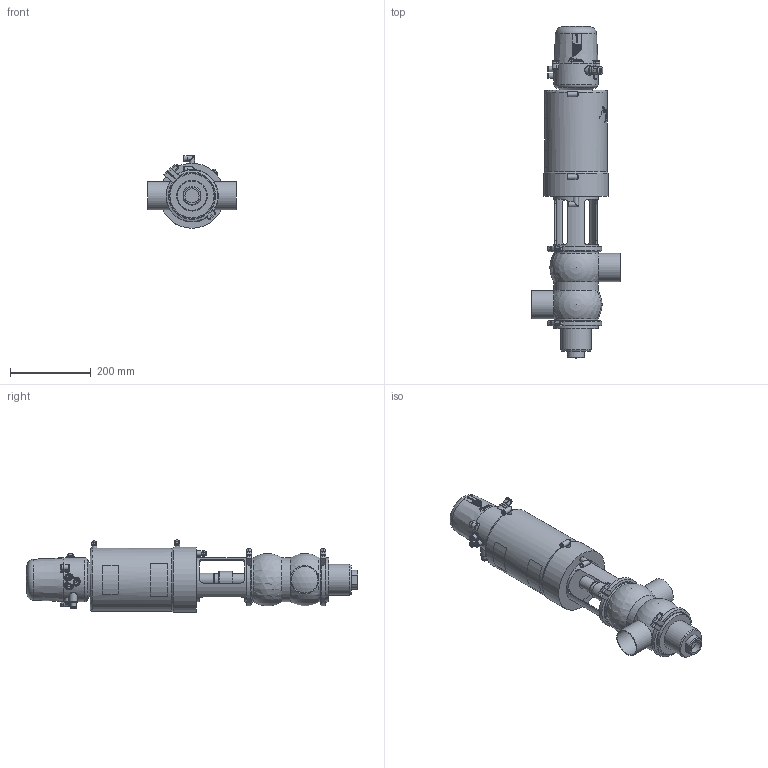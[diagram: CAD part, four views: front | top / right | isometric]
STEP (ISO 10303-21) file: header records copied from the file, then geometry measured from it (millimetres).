
FILE_DESCRIPTION (( 'STEP AP214' ), '1' );
FILE_NAME ('INNOVA P DC-180 W DIN 065 & C-TOP S_10.250.16.0019.STEP', '2024-08-08T12:21:15', ( '' ), ( '' ), 'SwSTEP 2.0', 'SolidWorks 2023', '' );
FILE_SCHEMA (( 'AUTOMOTIVE_DESIGN' ));
Length unit declared in the file: millimetre
Products named in the file (7): 10.250.15.0002_Type P T2; 10.240.15.0001_DN 065; 10.250.15.0003_DN 065; INNOVA P DC-180 W DIN 065 & C-TOP S_10.250.16.0019; 10.426.15.0001_C-TOP S - 3 EV; 10.250.15.0001_DIN 065; 10.251.15.0011_DIN 065
Assembly tree (7 placements, depth 2):
  INNOVA P DC-180 W DIN 065 & C-TOP S_10.250.16.0019
    10.250.15.0001_DIN 065
    10.250.15.0002_Type P T2
    10.426.15.0001_C-TOP S - 3 EV
    10.251.15.0011_DIN 065
    10.240.15.0001_DN 065  x2
    10.250.15.0003_DN 065
Bounding box: 220 x 822 x 179.5 mm (x, y, z)
Volume: 9462542.5 mm3; surface area: 573439.3 mm2
Topology: 7 solids, 7 shells, 1204 faces, 2892 edges, 1924 vertices
Faces by surface type: plane 414, cylinder 383, cone 204, bspline 162, torus 33, sphere 8
Full cylindrical faces by diameter (mm): 0.371 x17, 0.512 x16, 0.658 x16, 0.795 x16, 0.94 x15, 1.098 x15, 1.241 x13, 1.382 x13, 1.523 x11, 1.669 x10, 2.201 x1, 4.2 x2, 5 x1, 5.5 x2, 6 x4, 6.15 x3, 8 x5, 10 x1, 10.5 x3, 11 x4, 12.5 x9, 13 x6, 13.5 x2, 17 x3, 20 x2, 22 x2, 30.5 x2, 32 x1, 35 x1, 41 x1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
Entity records: 60003 total; most frequent: CARTESIAN_POINT 28658, ORIENTED_EDGE 4600, DIRECTION 3753, EDGE_CURVE 2300, VERTEX_POINT 1642, EDGE_LOOP 1628, AXIS2_PLACEMENT_3D 1546, FACE_OUTER_BOUND 1373
